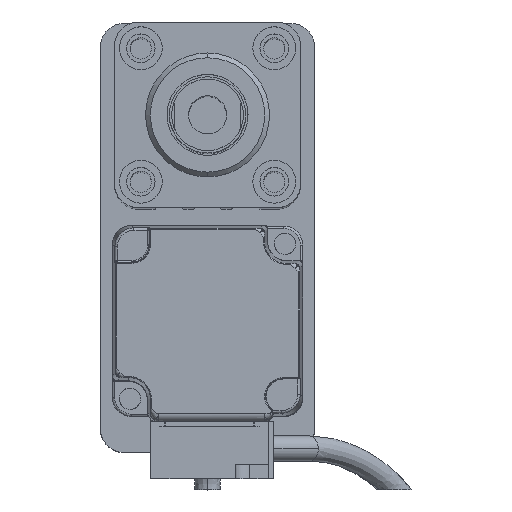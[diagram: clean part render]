
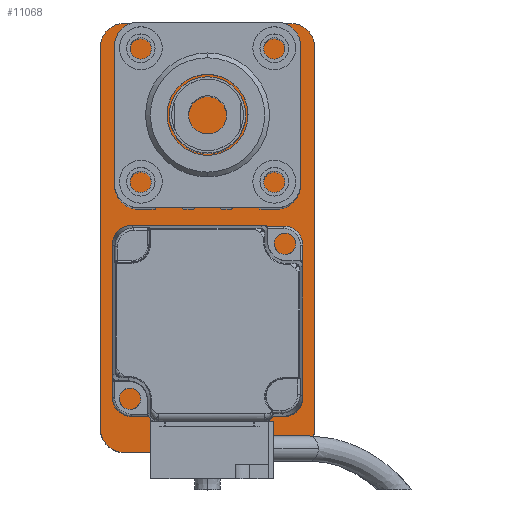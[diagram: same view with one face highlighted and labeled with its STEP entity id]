
A CAD part, top view. The second image highlights one B-rep face of the part: STEP entity #11068.
In plain terms, the highlighted planar face has unit normal (0, 0, 1).
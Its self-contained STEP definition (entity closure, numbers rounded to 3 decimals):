
#161 = DIRECTION ( 'NONE',  ( 1., 0., 0. ) ) ;
#455 = DIRECTION ( 'NONE',  ( 0., 0., 1. ) ) ;
#625 = CARTESIAN_POINT ( 'NONE',  ( 17.5, 45., 10. ) ) ;
#1148 = VECTOR ( 'NONE', #17258, 1000. ) ;
#1753 = CARTESIAN_POINT ( 'NONE',  ( 17.5, -40., 10. ) ) ;
#2978 = CARTESIAN_POINT ( 'NONE',  ( -22.5, 40., 10. ) ) ;
#3146 = VERTEX_POINT ( 'NONE', #26621 ) ;
#3282 = AXIS2_PLACEMENT_3D ( 'NONE', #28260, #455, #18929 ) ;
#3343 = CARTESIAN_POINT ( 'NONE',  ( 22.5, 45., 10. ) ) ;
#3438 = DIRECTION ( 'NONE',  ( -1., 0., 0. ) ) ;
#3833 = CIRCLE ( 'NONE', #13630, 5. ) ;
#4366 = DIRECTION ( 'NONE',  ( 0., 0., 1. ) ) ;
#5207 = VERTEX_POINT ( 'NONE', #23261 ) ;
#5358 = EDGE_CURVE ( 'NONE', #5207, #7520, #6176, .T. ) ;
#6151 = CARTESIAN_POINT ( 'NONE',  ( -17.5, 45., 10. ) ) ;
#6176 = LINE ( 'NONE', #21933, #1148 ) ;
#6841 = ORIENTED_EDGE ( 'NONE', *, *, #20023, .T. ) ;
#7260 = LINE ( 'NONE', #26850, #10524 ) ;
#7355 = ORIENTED_EDGE ( 'NONE', *, *, #12302, .T. ) ;
#7520 = VERTEX_POINT ( 'NONE', #18993 ) ;
#8237 = CIRCLE ( 'NONE', #17264, 5. ) ;
#9085 = FACE_OUTER_BOUND ( 'NONE', #22995, .T. ) ;
#9361 = EDGE_CURVE ( 'NONE', #10601, #24951, #12096, .T. ) ;
#9578 = CARTESIAN_POINT ( 'NONE',  ( -17.5, -40., 10. ) ) ;
#9787 = CIRCLE ( 'NONE', #25608, 5. ) ;
#10183 = DIRECTION ( 'NONE',  ( 1., 0., 0. ) ) ;
#10282 = VECTOR ( 'NONE', #3438, 1000. ) ;
#10524 = VECTOR ( 'NONE', #17341, 1000. ) ;
#10556 = EDGE_CURVE ( 'NONE', #19615, #27275, #29080, .T. ) ;
#10601 = VERTEX_POINT ( 'NONE', #625 ) ;
#11068 = ADVANCED_FACE ( 'NONE', ( #9085 ), #16698, .T. ) ;
#11260 = CARTESIAN_POINT ( 'NONE',  ( -22.5, -40., 10. ) ) ;
#11290 = CIRCLE ( 'NONE', #29323, 5. ) ;
#11357 = ORIENTED_EDGE ( 'NONE', *, *, #15871, .T. ) ;
#11663 = CARTESIAN_POINT ( 'NONE',  ( -17.5, 40., 10. ) ) ;
#12096 = LINE ( 'NONE', #3343, #10282 ) ;
#12302 = EDGE_CURVE ( 'NONE', #27275, #5207, #9787, .T. ) ;
#12421 = CARTESIAN_POINT ( 'NONE',  ( 17.5, 40., 10. ) ) ;
#13150 = EDGE_CURVE ( 'NONE', #28590, #10601, #8237, .T. ) ;
#13630 = AXIS2_PLACEMENT_3D ( 'NONE', #11663, #27838, #161 ) ;
#15871 = EDGE_CURVE ( 'NONE', #24951, #19615, #3833, .T. ) ;
#16630 = ORIENTED_EDGE ( 'NONE', *, *, #10556, .T. ) ;
#16698 = PLANE ( 'NONE',  #3282 ) ;
#17258 = DIRECTION ( 'NONE',  ( 1., 0., 0. ) ) ;
#17264 = AXIS2_PLACEMENT_3D ( 'NONE', #12421, #26183, #10183 ) ;
#17341 = DIRECTION ( 'NONE',  ( 0., 1., 0. ) ) ;
#17810 = VECTOR ( 'NONE', #17865, 1000. ) ;
#17865 = DIRECTION ( 'NONE',  ( 0., -1., 0. ) ) ;
#18929 = DIRECTION ( 'NONE',  ( 1., 0., 0. ) ) ;
#18993 = CARTESIAN_POINT ( 'NONE',  ( 17.5, -45., 10. ) ) ;
#19615 = VERTEX_POINT ( 'NONE', #2978 ) ;
#20023 = EDGE_CURVE ( 'NONE', #7520, #3146, #11290, .T. ) ;
#20700 = ORIENTED_EDGE ( 'NONE', *, *, #9361, .T. ) ;
#21256 = ORIENTED_EDGE ( 'NONE', *, *, #25538, .T. ) ;
#21333 = ORIENTED_EDGE ( 'NONE', *, *, #5358, .T. ) ;
#21933 = CARTESIAN_POINT ( 'NONE',  ( 22.5, -45., 10. ) ) ;
#22539 = CARTESIAN_POINT ( 'NONE',  ( -22.5, -45., 10. ) ) ;
#22995 = EDGE_LOOP ( 'NONE', ( #21256, #27012, #20700, #11357, #16630, #7355, #21333, #6841 ) ) ;
#23261 = CARTESIAN_POINT ( 'NONE',  ( -17.5, -45., 10. ) ) ;
#24951 = VERTEX_POINT ( 'NONE', #6151 ) ;
#25538 = EDGE_CURVE ( 'NONE', #3146, #28590, #7260, .T. ) ;
#25608 = AXIS2_PLACEMENT_3D ( 'NONE', #9578, #25787, #28123 ) ;
#25787 = DIRECTION ( 'NONE',  ( 0., 0., 1. ) ) ;
#26183 = DIRECTION ( 'NONE',  ( 0., 0., 1. ) ) ;
#26621 = CARTESIAN_POINT ( 'NONE',  ( 22.5, -40., 10. ) ) ;
#26850 = CARTESIAN_POINT ( 'NONE',  ( 22.5, -45., 10. ) ) ;
#27012 = ORIENTED_EDGE ( 'NONE', *, *, #13150, .T. ) ;
#27120 = DIRECTION ( 'NONE',  ( 1., 0., 0. ) ) ;
#27275 = VERTEX_POINT ( 'NONE', #11260 ) ;
#27470 = CARTESIAN_POINT ( 'NONE',  ( 22.5, 40., 10. ) ) ;
#27838 = DIRECTION ( 'NONE',  ( 0., 0., 1. ) ) ;
#28123 = DIRECTION ( 'NONE',  ( 1., 0., 0. ) ) ;
#28260 = CARTESIAN_POINT ( 'NONE',  ( 0., 0., 10. ) ) ;
#28590 = VERTEX_POINT ( 'NONE', #27470 ) ;
#29080 = LINE ( 'NONE', #22539, #17810 ) ;
#29323 = AXIS2_PLACEMENT_3D ( 'NONE', #1753, #4366, #27120 ) ;
